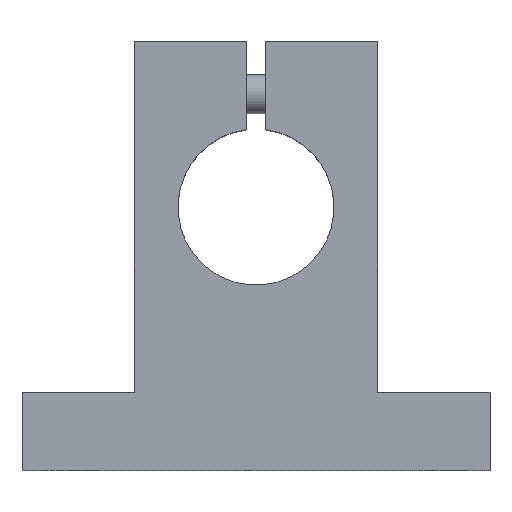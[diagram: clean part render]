
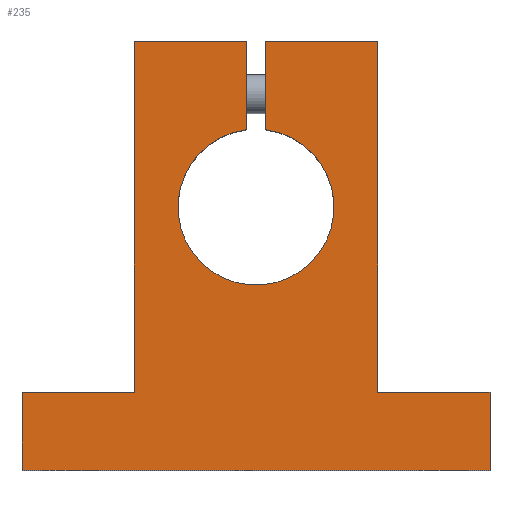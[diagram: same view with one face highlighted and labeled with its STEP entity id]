
A CAD part, top view. The second image highlights one B-rep face of the part: STEP entity #235.
In plain terms, the highlighted planar face has unit normal (0, 0, 1).
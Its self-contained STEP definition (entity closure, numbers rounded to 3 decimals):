
#235=ADVANCED_FACE('',(#609),#611,.T.);
#609=FACE_BOUND('',#610,.T.);
#610=EDGE_LOOP('',(#920,#921,#922,#923,#924,#925,#926,#927,#928,#929,#930,#931));
#611=PLANE('',#612);
#612=AXIS2_PLACEMENT_3D('',#613,#614,#615);
#613=CARTESIAN_POINT('',(0.,0.,8.));
#614=DIRECTION('',(0.,0.,1.));
#615=DIRECTION('',(1.,0.,0.));
#920=ORIENTED_EDGE('',*,*,#1081,.T.);
#921=ORIENTED_EDGE('',*,*,#1082,.T.);
#922=ORIENTED_EDGE('',*,*,#1083,.T.);
#923=ORIENTED_EDGE('',*,*,#1084,.T.);
#924=ORIENTED_EDGE('',*,*,#1085,.T.);
#925=ORIENTED_EDGE('',*,*,#1086,.T.);
#926=ORIENTED_EDGE('',*,*,#1087,.T.);
#927=ORIENTED_EDGE('',*,*,#1088,.T.);
#928=ORIENTED_EDGE('',*,*,#1062,.T.);
#929=ORIENTED_EDGE('',*,*,#1080,.T.);
#930=ORIENTED_EDGE('',*,*,#1068,.T.);
#931=ORIENTED_EDGE('',*,*,#1089,.T.);
#1062=EDGE_CURVE('',#1152,#1150,#1153,.T.);
#1068=EDGE_CURVE('',#1164,#1162,#1165,.T.);
#1080=EDGE_CURVE('',#1150,#1164,#1185,.T.);
#1081=EDGE_CURVE('',#1186,#1187,#1188,.T.);
#1082=EDGE_CURVE('',#1187,#1189,#1190,.T.);
#1083=EDGE_CURVE('',#1189,#1191,#1192,.T.);
#1084=EDGE_CURVE('',#1191,#1193,#1194,.T.);
#1085=EDGE_CURVE('',#1193,#1195,#1196,.T.);
#1086=EDGE_CURVE('',#1195,#1197,#1198,.T.);
#1087=EDGE_CURVE('',#1197,#1199,#1200,.T.);
#1088=EDGE_CURVE('',#1199,#1152,#1201,.T.);
#1089=EDGE_CURVE('',#1162,#1186,#1202,.T.);
#1150=VERTEX_POINT('',#1304);
#1152=VERTEX_POINT('',#1308);
#1153=LINE('',#1309,#1310);
#1162=VERTEX_POINT('',#1330);
#1164=VERTEX_POINT('',#1334);
#1165=LINE('',#1335,#1336);
#1185=LINE('',#1380,#1381);
#1186=VERTEX_POINT('',#1383);
#1187=VERTEX_POINT('',#1384);
#1188=LINE('',#1385,#1386);
#1189=VERTEX_POINT('',#1388);
#1190=LINE('',#1389,#1390);
#1191=VERTEX_POINT('',#1392);
#1192=LINE('',#1393,#1394);
#1193=VERTEX_POINT('',#1396);
#1194=LINE('',#1397,#1398);
#1195=VERTEX_POINT('',#1400);
#1196=LINE('',#1401,#1402);
#1197=VERTEX_POINT('',#1404);
#1198=LINE('',#1405,#1406);
#1199=VERTEX_POINT('',#1408);
#1200=LINE('',#1409,#1410);
#1201=LINE('',#1412,#1413);
#1202=CIRCLE('',#1415,8.);
#1304=CARTESIAN_POINT('',(12.5,17.,8.));
#1308=CARTESIAN_POINT('',(12.5,-19.,8.));
#1309=CARTESIAN_POINT('',(12.5,-19.,8.));
#1310=VECTOR('',#1311,1.);
#1311=DIRECTION('',(0.,1.,0.));
#1330=CARTESIAN_POINT('',(1.,7.937,8.));
#1334=CARTESIAN_POINT('',(1.,17.,8.));
#1335=CARTESIAN_POINT('',(1.,17.,8.));
#1336=VECTOR('',#1337,1.);
#1337=DIRECTION('',(0.,-1.,0.));
#1380=CARTESIAN_POINT('',(12.5,17.,8.));
#1381=VECTOR('',#1382,1.);
#1382=DIRECTION('',(-1.,0.,0.));
#1383=CARTESIAN_POINT('',(-1.,7.937,8.));
#1384=CARTESIAN_POINT('',(-1.,17.,8.));
#1385=CARTESIAN_POINT('',(-1.,7.937,8.));
#1386=VECTOR('',#1387,1.);
#1387=DIRECTION('',(0.,1.,0.));
#1388=CARTESIAN_POINT('',(-12.5,17.,8.));
#1389=CARTESIAN_POINT('',(-1.,17.,8.));
#1390=VECTOR('',#1391,1.);
#1391=DIRECTION('',(-1.,0.,0.));
#1392=CARTESIAN_POINT('',(-12.5,-19.,8.));
#1393=CARTESIAN_POINT('',(-12.5,17.,8.));
#1394=VECTOR('',#1395,1.);
#1395=DIRECTION('',(0.,-1.,0.));
#1396=CARTESIAN_POINT('',(-24.,-19.,8.));
#1397=CARTESIAN_POINT('',(-12.5,-19.,8.));
#1398=VECTOR('',#1399,1.);
#1399=DIRECTION('',(-1.,0.,0.));
#1400=CARTESIAN_POINT('',(-24.,-27.,8.));
#1401=CARTESIAN_POINT('',(-24.,-19.,8.));
#1402=VECTOR('',#1403,1.);
#1403=DIRECTION('',(0.,-1.,0.));
#1404=CARTESIAN_POINT('',(24.,-27.,8.));
#1405=CARTESIAN_POINT('',(-24.,-27.,8.));
#1406=VECTOR('',#1407,1.);
#1407=DIRECTION('',(1.,0.,0.));
#1408=CARTESIAN_POINT('',(24.,-19.,8.));
#1409=CARTESIAN_POINT('',(24.,-27.,8.));
#1410=VECTOR('',#1411,1.);
#1411=DIRECTION('',(0.,1.,0.));
#1412=CARTESIAN_POINT('',(24.,-19.,8.));
#1413=VECTOR('',#1414,1.);
#1414=DIRECTION('',(-1.,0.,0.));
#1415=AXIS2_PLACEMENT_3D('',#1416,#1417,#1418);
#1416=CARTESIAN_POINT('',(0.,0.,8.));
#1417=DIRECTION('',(0.,0.,-1.));
#1418=DIRECTION('',(0.125,0.992,0.));
